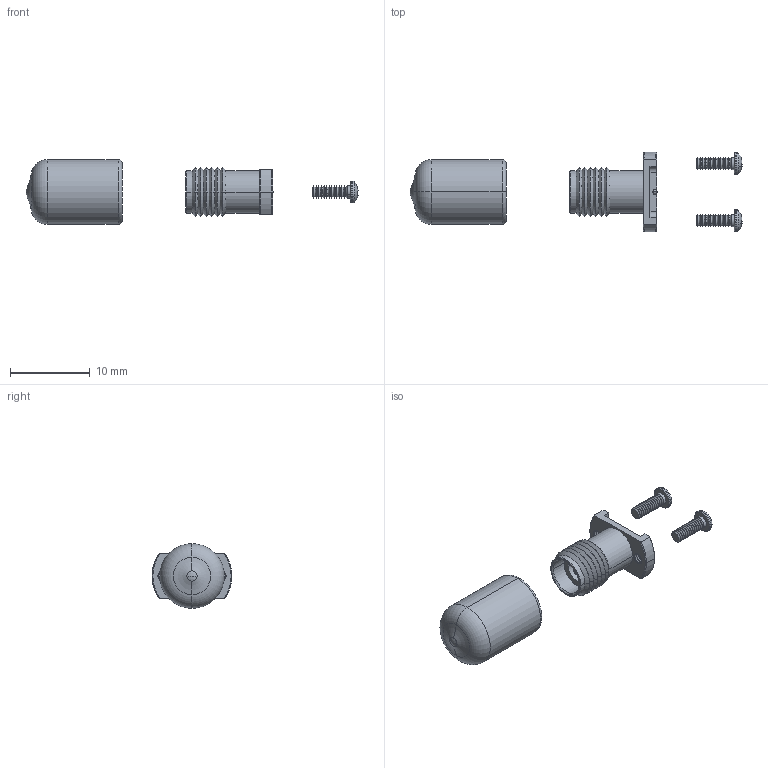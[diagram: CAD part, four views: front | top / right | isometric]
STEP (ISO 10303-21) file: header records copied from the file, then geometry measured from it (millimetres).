
FILE_DESCRIPTION (( 'STEP AP203' ), '1' );
FILE_NAME ('61-2X044-44050B.STEP', '2020-02-04T02:06:14', ( '' ), ( '' ), 'SwSTEP 2.0', 'SolidWorks 2016', '' );
FILE_SCHEMA (( 'CONFIG_CONTROL_DESIGN' ));
Length unit declared in the file: millimetre
Products named in the file (15): 110-0007-440000A; 61-2X044-44050B; 101-2732-440050B; 108-0063-900000B; 101-2733-440000B; 102-1161-700000D; 103-1397-226050C; 61-20044-44051B
Assembly tree (8 placements, depth 3):
  110-0007-440000A
  61-2X044-44050B
    61-20044-44051B
      101-2732-440050B
      101-2733-440000B
      103-1397-226050C
      102-1161-700000D
      108-0063-900000B
    110-0007-440000A  x2
  101-2732-440050B
  108-0063-900000B
  101-2733-440000B
Bounding box: 41.63 x 10.01 x 8.1 mm (x, y, z)
Volume: 520.7 mm3; surface area: 1371.6 mm2
Topology: 7 solids, 7 shells, 425 faces, 964 edges, 566 vertices
Faces by surface type: cone 241, cylinder 86, plane 68, torus 22, sphere 8
Entity records: 11163 total; most frequent: CARTESIAN_POINT 1911, DIRECTION 1817, ORIENTED_EDGE 1554, EDGE_CURVE 777, AXIS2_PLACEMENT_3D 760, VERTEX_POINT 462, CIRCLE 406, EDGE_LOOP 375
